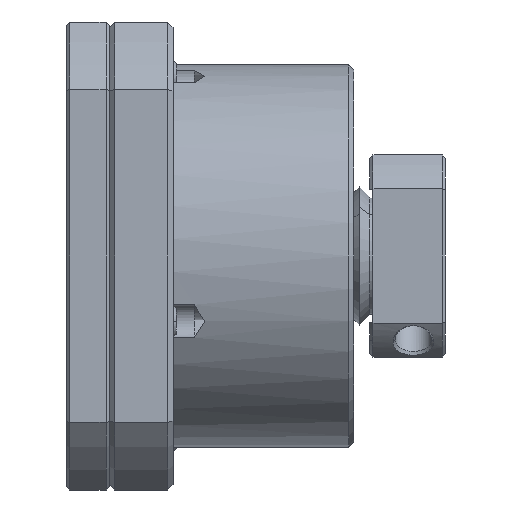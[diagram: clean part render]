
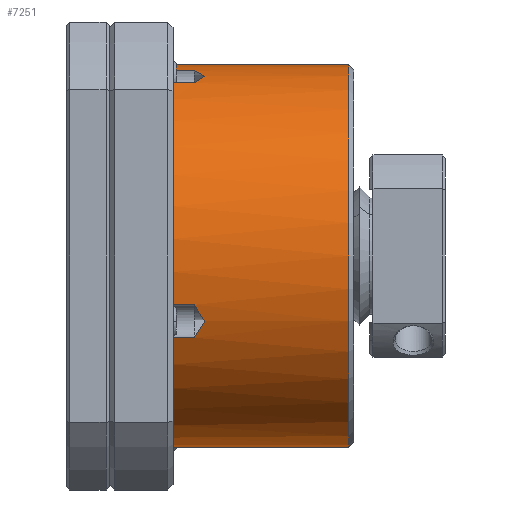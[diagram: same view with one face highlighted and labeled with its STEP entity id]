
A CAD part, front view. The second image highlights one B-rep face of the part: STEP entity #7251.
In plain terms, the highlighted cylindrical face has radius 18 mm (diameter 36 mm), a partial arc.
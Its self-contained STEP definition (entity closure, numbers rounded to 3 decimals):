
#18 = ORIENTED_EDGE ( 'NONE', *, *, #5286, .F. ) ;
#127 = ORIENTED_EDGE ( 'NONE', *, *, #3932, .T. ) ;
#240 = EDGE_CURVE ( 'NONE', #4214, #6507, #2811, .T. ) ;
#269 = CARTESIAN_POINT ( 'NONE',  ( 8.661, -16.726, -6.674 ) ) ;
#359 = VECTOR ( 'NONE', #4163, 1000. ) ;
#405 = ORIENTED_EDGE ( 'NONE', *, *, #5331, .T. ) ;
#409 = EDGE_CURVE ( 'NONE', #3666, #1192, #821, .T. ) ;
#418 = VERTEX_POINT ( 'NONE', #1580 ) ;
#496 = ORIENTED_EDGE ( 'NONE', *, *, #6391, .T. ) ;
#539 = CARTESIAN_POINT ( 'NONE',  ( 6., 0., -18. ) ) ;
#679 = ORIENTED_EDGE ( 'NONE', *, *, #240, .T. ) ;
#710 = VERTEX_POINT ( 'NONE', #7543 ) ;
#733 = CARTESIAN_POINT ( 'NONE',  ( -5.326, 0., -18. ) ) ;
#784 = ORIENTED_EDGE ( 'NONE', *, *, #6931, .F. ) ;
#821 = CIRCLE ( 'NONE', #2657, 18. ) ;
#830 = CARTESIAN_POINT ( 'NONE',  ( 4., -4.582, 17.407 ) ) ;
#925 = CARTESIAN_POINT ( 'NONE',  ( 8.33, -5.113, 17.267 ) ) ;
#996 = CARTESIAN_POINT ( 'NONE',  ( -5.326, 0., 0. ) ) ;
#1128 = CARTESIAN_POINT ( 'NONE',  ( 6., 0., 0. ) ) ;
#1184 = CARTESIAN_POINT ( 'NONE',  ( 8.991, -6.156, 16.914 ) ) ;
#1192 = VERTEX_POINT ( 'NONE', #3931 ) ;
#1275 = CARTESIAN_POINT ( 'NONE',  ( 8., -4.582, 17.407 ) ) ;
#1388 = DIRECTION ( 'NONE',  ( -1., 0., 0. ) ) ;
#1547 = CARTESIAN_POINT ( 'NONE',  ( 8., -4.582, 17.407 ) ) ;
#1580 = CARTESIAN_POINT ( 'NONE',  ( 8., -7.679, 16.28 ) ) ;
#1605 = CARTESIAN_POINT ( 'NONE',  ( 6., -7.679, 16.28 ) ) ;
#1667 = DIRECTION ( 'NONE',  ( 0., 0., 1. ) ) ;
#1720 = DIRECTION ( 'NONE',  ( -1., 0., 0. ) ) ;
#1746 = CARTESIAN_POINT ( 'NONE',  ( 22.5, 0., 0. ) ) ;
#1763 = DIRECTION ( 'NONE',  ( 0., 0., 1. ) ) ;
#1766 = VERTEX_POINT ( 'NONE', #1946 ) ;
#1945 = EDGE_CURVE ( 'NONE', #3666, #2488, #3732, .T. ) ;
#1946 = CARTESIAN_POINT ( 'NONE',  ( 6., 0., 18. ) ) ;
#2053 = AXIS2_PLACEMENT_3D ( 'NONE', #1128, #5522, #1763 ) ;
#2144 = CARTESIAN_POINT ( 'NONE',  ( 8.991, -16.914, -6.156 ) ) ;
#2264 = DIRECTION ( 'NONE',  ( -1., 0., 0. ) ) ;
#2427 = CARTESIAN_POINT ( 'NONE',  ( 8.991, -16.914, -6.156 ) ) ;
#2455 = B_SPLINE_CURVE_WITH_KNOTS ( 'NONE', 3,
 ( #2144, #269, #3413, #7657 ),
 .UNSPECIFIED., .F., .F.,
 ( 4, 4 ),
 ( 0., 0.002 ),
 .UNSPECIFIED. ) ;
#2488 = VERTEX_POINT ( 'NONE', #539 ) ;
#2528 = DIRECTION ( 'NONE',  ( -1., 0., 0. ) ) ;
#2657 = AXIS2_PLACEMENT_3D ( 'NONE', #1746, #1720, #1667 ) ;
#2768 = EDGE_CURVE ( 'NONE', #6865, #1766, #4737, .T. ) ;
#2811 = LINE ( 'NONE', #4492, #359 ) ;
#2977 = VERTEX_POINT ( 'NONE', #6386 ) ;
#3103 = CARTESIAN_POINT ( 'NONE',  ( 8.33, -7.182, 16.514 ) ) ;
#3149 = VECTOR ( 'NONE', #6414, 1000. ) ;
#3155 = B_SPLINE_CURVE_WITH_KNOTS ( 'NONE', 3,
 ( #4285, #3672, #6156, #2427 ),
 .UNSPECIFIED., .F., .F.,
 ( 4, 4 ),
 ( 0.002, 0.004 ),
 .UNSPECIFIED. ) ;
#3413 = CARTESIAN_POINT ( 'NONE',  ( 8.33, -16.514, -7.182 ) ) ;
#3445 = CIRCLE ( 'NONE', #2053, 18. ) ;
#3666 = VERTEX_POINT ( 'NONE', #5107 ) ;
#3672 = CARTESIAN_POINT ( 'NONE',  ( 8.33, -17.267, -5.113 ) ) ;
#3732 = LINE ( 'NONE', #733, #3149 ) ;
#3762 = VERTEX_POINT ( 'NONE', #1605 ) ;
#3911 = EDGE_CURVE ( 'NONE', #6829, #4863, #5400, .T. ) ;
#3931 = CARTESIAN_POINT ( 'NONE',  ( 22.5, 0., 18. ) ) ;
#3932 = EDGE_CURVE ( 'NONE', #2977, #710, #7182, .T. ) ;
#3960 = DIRECTION ( 'NONE',  ( 1., 0., 0. ) ) ;
#4023 = EDGE_CURVE ( 'NONE', #4863, #418, #4915, .T. ) ;
#4054 = CARTESIAN_POINT ( 'NONE',  ( 4., -17.407, -4.582 ) ) ;
#4061 = AXIS2_PLACEMENT_3D ( 'NONE', #5133, #1388, #5760 ) ;
#4090 = EDGE_LOOP ( 'NONE', ( #6674, #6746, #6930, #7113, #7359, #7452, #7757, #7910, #18, #127, #405, #496, #679, #784 ) ) ;
#4163 = DIRECTION ( 'NONE',  ( -1., 0., 0. ) ) ;
#4199 = AXIS2_PLACEMENT_3D ( 'NONE', #7156, #6633, #6607 ) ;
#4214 = VERTEX_POINT ( 'NONE', #5754 ) ;
#4272 = EDGE_CURVE ( 'NONE', #6865, #6829, #6342, .T. ) ;
#4285 = CARTESIAN_POINT ( 'NONE',  ( 8., -17.407, -4.582 ) ) ;
#4344 = CARTESIAN_POINT ( 'NONE',  ( 8.991, -16.914, -6.156 ) ) ;
#4492 = CARTESIAN_POINT ( 'NONE',  ( 4., -16.28, -7.679 ) ) ;
#4681 = CARTESIAN_POINT ( 'NONE',  ( 8.661, -5.64, 17.102 ) ) ;
#4737 = CIRCLE ( 'NONE', #4199, 18. ) ;
#4848 = VERTEX_POINT ( 'NONE', #4344 ) ;
#4863 = VERTEX_POINT ( 'NONE', #6207 ) ;
#4915 = B_SPLINE_CURVE_WITH_KNOTS ( 'NONE', 3,
 ( #1184, #5572, #3103, #7362 ),
 .UNSPECIFIED., .F., .F.,
 ( 4, 4 ),
 ( 0., 0.002 ),
 .UNSPECIFIED. ) ;
#5107 = CARTESIAN_POINT ( 'NONE',  ( 22.5, 0., -18. ) ) ;
#5133 = CARTESIAN_POINT ( 'NONE',  ( 6., 0., 0. ) ) ;
#5134 = AXIS2_PLACEMENT_3D ( 'NONE', #996, #2264, #7737 ) ;
#5206 = VECTOR ( 'NONE', #7121, 1000. ) ;
#5286 = EDGE_CURVE ( 'NONE', #2977, #3762, #3445, .T. ) ;
#5331 = EDGE_CURVE ( 'NONE', #710, #4848, #3155, .T. ) ;
#5400 = B_SPLINE_CURVE_WITH_KNOTS ( 'NONE', 3,
 ( #1547, #925, #4681, #5927 ),
 .UNSPECIFIED., .F., .F.,
 ( 4, 4 ),
 ( 0.002, 0.004 ),
 .UNSPECIFIED. ) ;
#5522 = DIRECTION ( 'NONE',  ( -1., 0., 0. ) ) ;
#5533 = CYLINDRICAL_SURFACE ( 'NONE', #5134, 18. ) ;
#5572 = CARTESIAN_POINT ( 'NONE',  ( 8.661, -6.674, 16.726 ) ) ;
#5679 = CARTESIAN_POINT ( 'NONE',  ( 6., -4.582, 17.407 ) ) ;
#5754 = CARTESIAN_POINT ( 'NONE',  ( 8., -16.28, -7.679 ) ) ;
#5760 = DIRECTION ( 'NONE',  ( 0., 0., 1. ) ) ;
#5927 = CARTESIAN_POINT ( 'NONE',  ( 8.991, -6.156, 16.914 ) ) ;
#5956 = CARTESIAN_POINT ( 'NONE',  ( 6., -16.28, -7.679 ) ) ;
#6015 = VECTOR ( 'NONE', #2528, 1000. ) ;
#6156 = CARTESIAN_POINT ( 'NONE',  ( 8.661, -17.102, -5.64 ) ) ;
#6207 = CARTESIAN_POINT ( 'NONE',  ( 8.991, -6.156, 16.914 ) ) ;
#6342 = LINE ( 'NONE', #830, #7714 ) ;
#6380 = EDGE_CURVE ( 'NONE', #418, #3762, #6392, .T. ) ;
#6386 = CARTESIAN_POINT ( 'NONE',  ( 6., -17.407, -4.582 ) ) ;
#6391 = EDGE_CURVE ( 'NONE', #4848, #4214, #2455, .T. ) ;
#6392 = LINE ( 'NONE', #6447, #7938 ) ;
#6414 = DIRECTION ( 'NONE',  ( -1., 0., 0. ) ) ;
#6447 = CARTESIAN_POINT ( 'NONE',  ( 4., -7.679, 16.28 ) ) ;
#6507 = VERTEX_POINT ( 'NONE', #5956 ) ;
#6607 = DIRECTION ( 'NONE',  ( 0., 0., 1. ) ) ;
#6633 = DIRECTION ( 'NONE',  ( -1., 0., 0. ) ) ;
#6674 = ORIENTED_EDGE ( 'NONE', *, *, #1945, .F. ) ;
#6746 = ORIENTED_EDGE ( 'NONE', *, *, #409, .T. ) ;
#6829 = VERTEX_POINT ( 'NONE', #1275 ) ;
#6843 = CARTESIAN_POINT ( 'NONE',  ( -5.326, 0., 18. ) ) ;
#6865 = VERTEX_POINT ( 'NONE', #5679 ) ;
#6930 = ORIENTED_EDGE ( 'NONE', *, *, #7395, .T. ) ;
#6931 = EDGE_CURVE ( 'NONE', #2488, #6507, #7384, .T. ) ;
#7113 = ORIENTED_EDGE ( 'NONE', *, *, #2768, .F. ) ;
#7121 = DIRECTION ( 'NONE',  ( 1., 0., 0. ) ) ;
#7156 = CARTESIAN_POINT ( 'NONE',  ( 6., 0., 0. ) ) ;
#7182 = LINE ( 'NONE', #4054, #5206 ) ;
#7251 = ADVANCED_FACE ( 'NONE', ( #7298 ), #5533, .T. ) ;
#7298 = FACE_OUTER_BOUND ( 'NONE', #4090, .T. ) ;
#7359 = ORIENTED_EDGE ( 'NONE', *, *, #4272, .T. ) ;
#7362 = CARTESIAN_POINT ( 'NONE',  ( 8., -7.679, 16.28 ) ) ;
#7384 = CIRCLE ( 'NONE', #4061, 18. ) ;
#7395 = EDGE_CURVE ( 'NONE', #1192, #1766, #7565, .T. ) ;
#7452 = ORIENTED_EDGE ( 'NONE', *, *, #3911, .T. ) ;
#7543 = CARTESIAN_POINT ( 'NONE',  ( 8., -17.407, -4.582 ) ) ;
#7565 = LINE ( 'NONE', #6843, #6015 ) ;
#7604 = DIRECTION ( 'NONE',  ( -1., 0., 0. ) ) ;
#7657 = CARTESIAN_POINT ( 'NONE',  ( 8., -16.28, -7.679 ) ) ;
#7714 = VECTOR ( 'NONE', #3960, 1000. ) ;
#7737 = DIRECTION ( 'NONE',  ( 0., 0., 1. ) ) ;
#7757 = ORIENTED_EDGE ( 'NONE', *, *, #4023, .T. ) ;
#7910 = ORIENTED_EDGE ( 'NONE', *, *, #6380, .T. ) ;
#7938 = VECTOR ( 'NONE', #7604, 1000. ) ;
